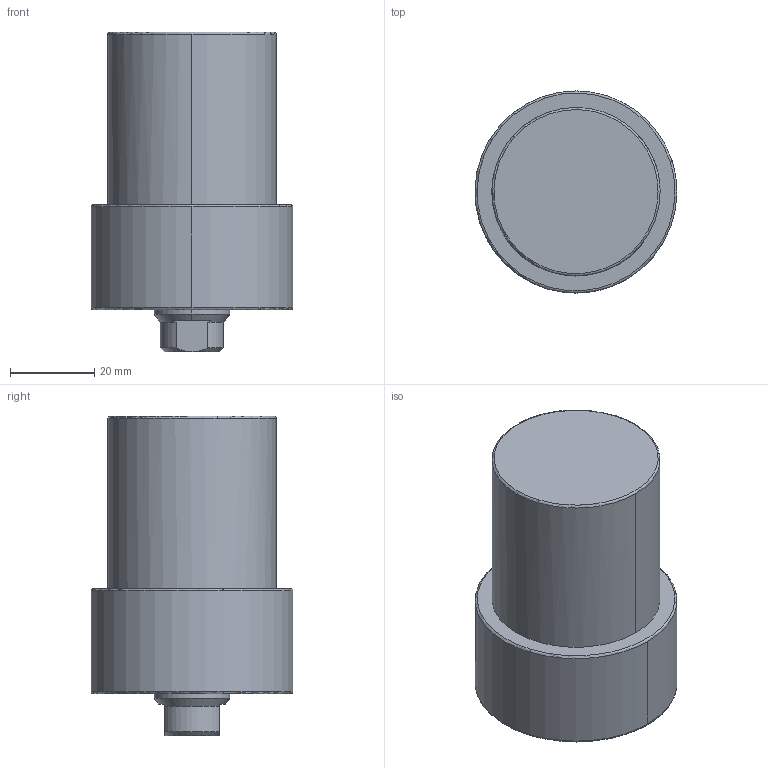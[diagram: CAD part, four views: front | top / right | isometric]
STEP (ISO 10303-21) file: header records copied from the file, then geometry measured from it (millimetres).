
FILE_DESCRIPTION((' '),'2;1');
FILE_NAME( 'TLLU-040GA-030.STEP.stp', '2025-10-24T16:37:10', (' '), ('--- Datakit www.datakit.com---'), ' Datakit CrossCadWare V2024.1 Dec 21 2023', 'Mastercam 2025', ' ');
FILE_SCHEMA(('AUTOMOTIVE_DESIGN { 1 0 10303 214 1 1 1 1 }'));
Length unit declared in the file: millimetre
Products named in the file (1): TLLU-040GA-030
Bounding box: 47.99 x 48 x 76 mm (x, y, z)
Volume: 96773.3 mm3; surface area: 14135.9 mm2
Topology: 1 solids, 1 shells, 62 faces, 180 edges, 119 vertices
Faces by surface type: cone 24, cylinder 22, plane 10, torus 6
Entity records: 2106 total; most frequent: DIRECTION 402, CARTESIAN_POINT 388, ORIENTED_EDGE 340, AXIS2_PLACEMENT_3D 177, EDGE_CURVE 170, VERTEX_POINT 119, CIRCLE 114, EDGE_LOOP 71
